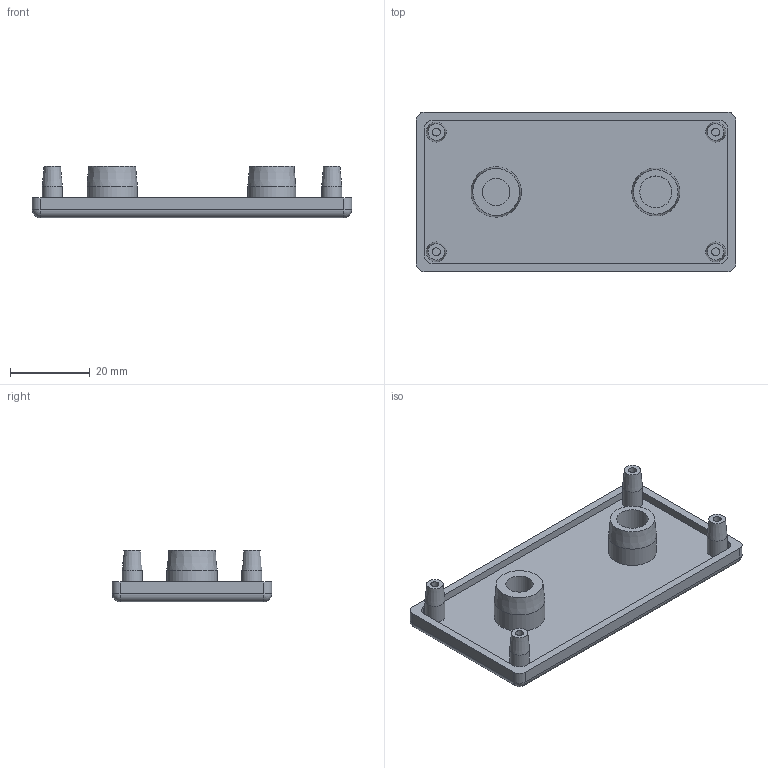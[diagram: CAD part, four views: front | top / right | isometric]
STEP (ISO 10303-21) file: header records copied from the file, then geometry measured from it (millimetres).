
FILE_DESCRIPTION(/* description */ ('Tappo 40x80'),/* implementation_level */ '2;1');
FILE_NAME(/* name */ 'C:\Users\Stefan.Nesic\Desktop\01010STEP\CC40-80.stp',/* time_stamp */ '2022-06-17T14:02:34+02:00',/* author */ ('USER'),/* organization */ ('Microsoft'),/* preprocessor_version */ 'ST-DEVELOPER v18.1',/* originating_system */ 'Autodesk Inventor 2021',/* authorisation */ '');
FILE_SCHEMA (('AUTOMOTIVE_DESIGN { 1 0 10303 214 3 1 1 }'));
Length unit declared in the file: millimetre
Products named in the file (1): CC40-80
Bounding box: 80 x 40 x 13 mm (x, y, z)
Volume: 12335.9 mm3; surface area: 9836.1 mm2
Topology: 1 solids, 1 shells, 57 faces, 112 edges, 66 vertices
Faces by surface type: cylinder 24, plane 23, cone 6, sphere 4
Full cylindrical faces by diameter (mm): 2 x4, 5 x4, 6.877 x1, 8 x1, 12 x1, 12.613 x1
Entity records: 1473 total; most frequent: DIRECTION 278, CARTESIAN_POINT 232, ORIENTED_EDGE 216, AXIS2_PLACEMENT_3D 112, EDGE_CURVE 108, EDGE_LOOP 70, VERTEX_POINT 66, FACE_OUTER_BOUND 57
